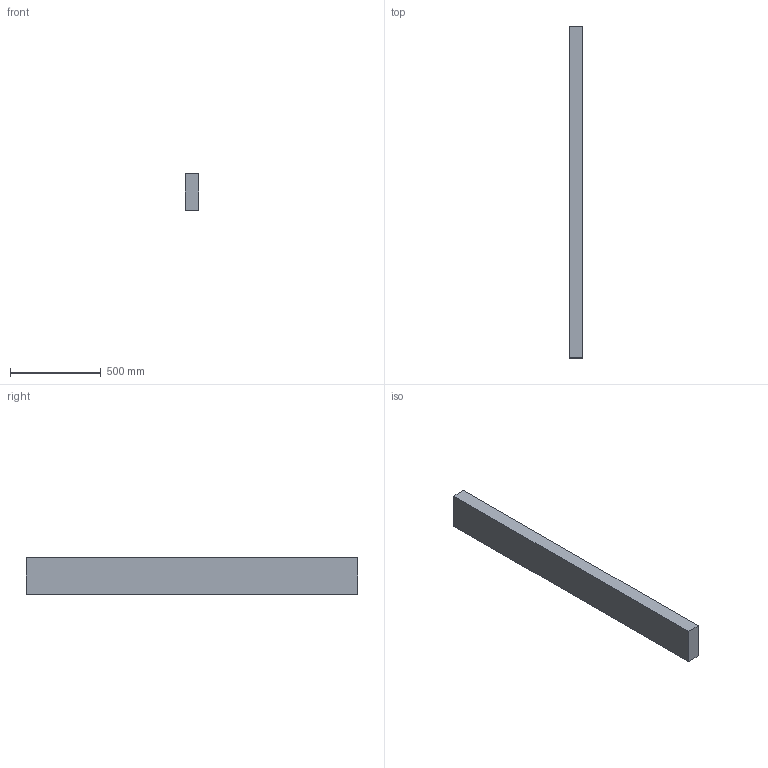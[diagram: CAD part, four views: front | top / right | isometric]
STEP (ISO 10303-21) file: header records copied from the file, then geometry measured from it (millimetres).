
FILE_DESCRIPTION(/* description */ (''),/* implementation_level */ '2;1');
FILE_NAME(/* name */ '3x8x72',/* time_stamp */ '2024-09-20T11:43:46-05:00',/* author */ (''),/* organization */ (''),/* preprocessor_version */ 'ST-DEVELOPER v19.2',/* originating_system */ 'Rhino 8.5',/* authorisation */ '');
FILE_SCHEMA (('CONFIG_CONTROL_DESIGN'));
Length unit declared in the file: inch
Products named in the file (1): Document
Bounding box: 76.2 x 1828.8 x 203.2 mm (x, y, z)
Volume: 28316846.6 mm3; surface area: 1052901.1 mm2
Topology: 1 solids, 1 shells, 6 faces, 12 edges, 8 vertices
Faces by surface type: plane 6
Entity records: 226 total; most frequent: CARTESIAN_POINT 40, ORIENTED_EDGE 24, EDGE_CURVE 12, B_SPLINE_CURVE_WITH_KNOTS 12, DIRECTION 10, VERTEX_POINT 8, AXIS2_PLACEMENT_3D 8, ORGANIZATION 7
